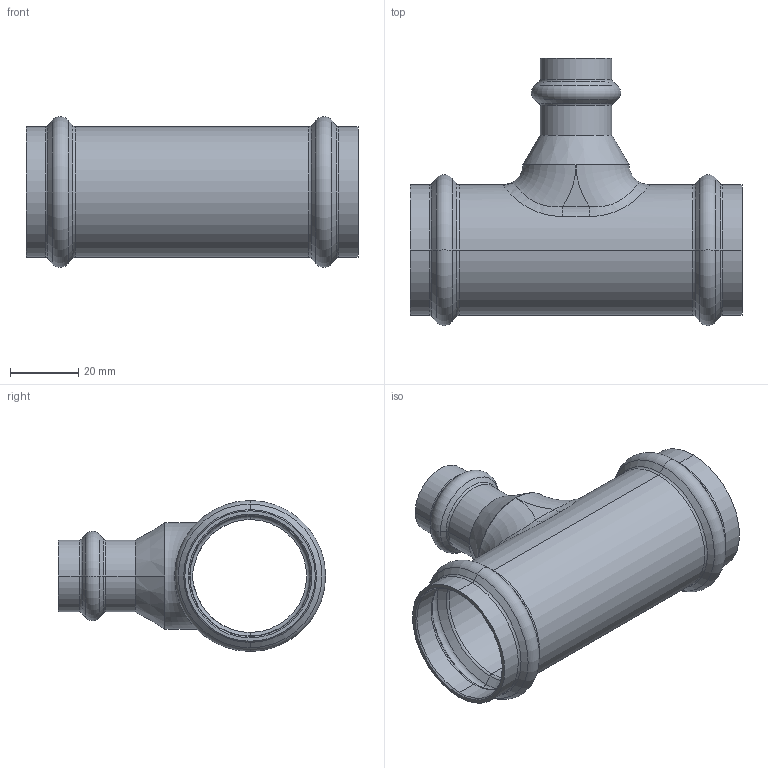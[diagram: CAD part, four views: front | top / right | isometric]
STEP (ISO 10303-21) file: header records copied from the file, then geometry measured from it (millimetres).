
FILE_DESCRIPTION (( 'STEP AP203' ), '1' );
FILE_NAME ('SP5130 Ø35-18-35.STEP', '2017-04-25T14:34:04', ( '' ), ( '' ), 'SwSTEP 2.0', 'SolidWorks 2016', '' );
FILE_SCHEMA (( 'CONFIG_CONTROL_DESIGN' ));
Length unit declared in the file: millimetre
Products named in the file (1): SP5130 Ø35-18-35
Bounding box: 97 x 78.05 x 44.1 mm (x, y, z)
Volume: 26093.1 mm3; surface area: 29021.5 mm2
Topology: 1 solids, 1 shells, 127 faces, 267 edges, 140 vertices
Faces by surface type: torus 45, cone 36, cylinder 33, plane 7, bspline 6
Entity records: 4895 total; most frequent: CARTESIAN_POINT 2086, DIRECTION 658, ORIENTED_EDGE 526, AXIS2_PLACEMENT_3D 294, EDGE_CURVE 263, CIRCLE 172, VERTEX_POINT 140, EDGE_LOOP 133
